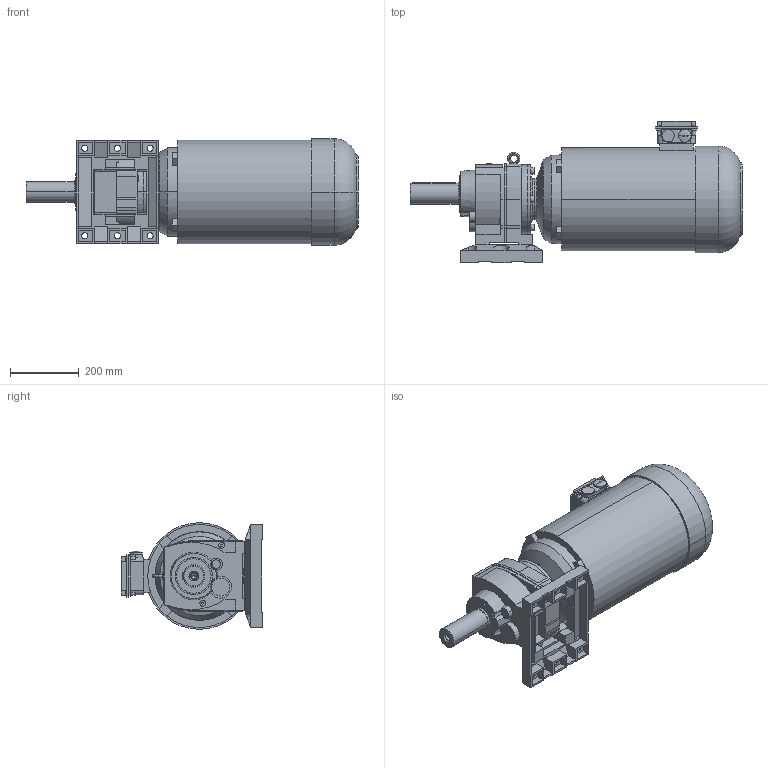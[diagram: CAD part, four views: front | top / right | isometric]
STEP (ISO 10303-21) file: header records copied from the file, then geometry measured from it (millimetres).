
FILE_DESCRIPTION(('STEP AP214'),'1');
FILE_NAME('STEP-File.stp','2018-01-01T00:00:00',(' '),('KEB'),' ','KEB-DRIVE',' ');
FILE_SCHEMA(('AUTOMOTIVE_DESIGN { 1 0 10303 214 1 1 1 1 }'));
Length unit declared in the file: millimetre
Products named in the file (9): z4a; w4_we_60x140; cs4; dm160_kkn; kk10; PLUG_M32; SCREW-PLUG_M32; ndm160; ZG42 DM160MB4§CAD13
Assembly tree (8 placements, depth 2):
  ZG42 DM160MB4§CAD13
    z4a
    w4_we_60x140
    cs4
    dm160_kkn
    kk10
    PLUG_M32
    SCREW-PLUG_M32
    ndm160
Bounding box: 965.99 x 410.6 x 310 mm (x, y, z)
Volume: 49279404 mm3; surface area: 1569156.1 mm2
Topology: 8 solids, 8 shells, 507 faces, 1340 edges, 877 vertices
Faces by surface type: plane 358, cylinder 102, cone 26, torus 17, bspline 2, revolution 2
Entity records: 17834 total; most frequent: CARTESIAN_POINT 5317, ORIENTED_EDGE 2676, DIRECTION 2325, EDGE_CURVE 1338, VECTOR 969, LINE 969, VERTEX_POINT 877, AXIS2_PLACEMENT_3D 677
